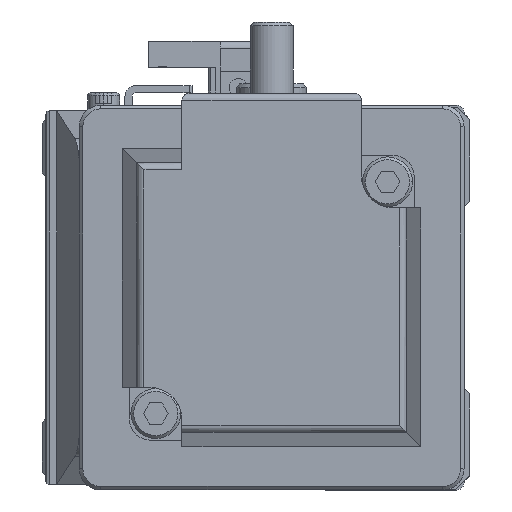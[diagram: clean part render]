
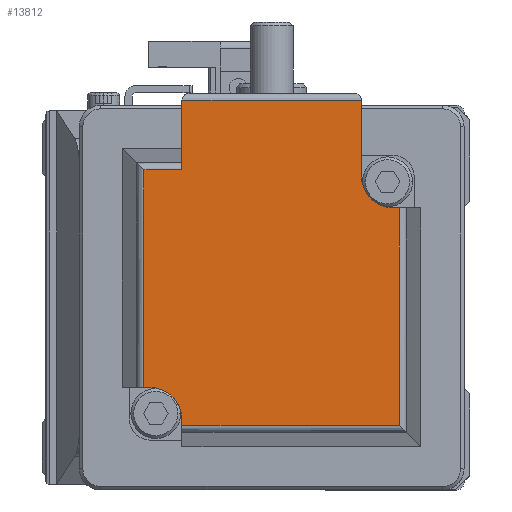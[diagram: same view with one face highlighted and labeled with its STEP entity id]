
A CAD part, left-side view. The second image highlights one B-rep face of the part: STEP entity #13812.
In plain terms, the highlighted planar face has unit normal (-1, 0, 0) as drawn and (0, 1, 0) by its records, which use the part's own axes.
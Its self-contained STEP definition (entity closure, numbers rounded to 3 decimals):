
#995 = CARTESIAN_POINT ( 'NONE',  ( 12.6, 100.6, 17.929 ) ) ;
#1674 = AXIS2_PLACEMENT_3D ( 'NONE', #2759, #31531, #15660 ) ;
#1908 = VECTOR ( 'NONE', #13305, 1000. ) ;
#1967 = DIRECTION ( 'NONE',  ( 1., 0., 0. ) ) ;
#1992 = CARTESIAN_POINT ( 'NONE',  ( 17.1, 100.6, 12.6 ) ) ;
#2058 = CIRCLE ( 'NONE', #3179, 4.5 ) ;
#2759 = CARTESIAN_POINT ( 'NONE',  ( 17.929, 100.6, 25. ) ) ;
#2847 = VERTEX_POINT ( 'NONE', #4758 ) ;
#3179 = AXIS2_PLACEMENT_3D ( 'NONE', #16193, #10974, #29320 ) ;
#3251 = DIRECTION ( 'NONE',  ( -1., 0., 0. ) ) ;
#3345 = VECTOR ( 'NONE', #16938, 1000. ) ;
#3416 = CARTESIAN_POINT ( 'NONE',  ( -17.1, 100.6, -17.1 ) ) ;
#3543 = VECTOR ( 'NONE', #7446, 1000. ) ;
#4276 = LINE ( 'NONE', #5369, #33292 ) ;
#4519 = VERTEX_POINT ( 'NONE', #18558 ) ;
#4758 = CARTESIAN_POINT ( 'NONE',  ( -12.6, 100.6, -17.929 ) ) ;
#4884 = EDGE_CURVE ( 'NONE', #9279, #12407, #30734, .T. ) ;
#4948 = VECTOR ( 'NONE', #9624, 1000. ) ;
#5369 = CARTESIAN_POINT ( 'NONE',  ( 17.929, 100.6, 12.6 ) ) ;
#6095 = ORIENTED_EDGE ( 'NONE', *, *, #21192, .F. ) ;
#7085 = CARTESIAN_POINT ( 'NONE',  ( -17.929, 100.6, 25. ) ) ;
#7230 = CARTESIAN_POINT ( 'NONE',  ( 17.929, 100.6, -12.6 ) ) ;
#7446 = DIRECTION ( 'NONE',  ( 0., 0., -1. ) ) ;
#7546 = VERTEX_POINT ( 'NONE', #29299 ) ;
#7608 = ORIENTED_EDGE ( 'NONE', *, *, #22359, .F. ) ;
#8092 = CARTESIAN_POINT ( 'NONE',  ( 17.929, 100.6, 25. ) ) ;
#8116 = PLANE ( 'NONE',  #1674 ) ;
#8151 = LINE ( 'NONE', #24376, #12715 ) ;
#8697 = CARTESIAN_POINT ( 'NONE',  ( -17.1, 100.6, -12.6 ) ) ;
#8884 = DIRECTION ( 'NONE',  ( 0., -1., 0. ) ) ;
#9279 = VERTEX_POINT ( 'NONE', #11038 ) ;
#9484 = LINE ( 'NONE', #30732, #4948 ) ;
#9596 = VECTOR ( 'NONE', #33510, 1000. ) ;
#9624 = DIRECTION ( 'NONE',  ( 0., 0., 1. ) ) ;
#10084 = VECTOR ( 'NONE', #26467, 1000. ) ;
#10923 = LINE ( 'NONE', #18332, #10084 ) ;
#10974 = DIRECTION ( 'NONE',  ( 0., 1., 0. ) ) ;
#11038 = CARTESIAN_POINT ( 'NONE',  ( 27.7, 100.6, -12.6 ) ) ;
#12407 = VERTEX_POINT ( 'NONE', #16891 ) ;
#12715 = VECTOR ( 'NONE', #3251, 1000. ) ;
#12885 = ORIENTED_EDGE ( 'NONE', *, *, #20775, .T. ) ;
#12920 = CARTESIAN_POINT ( 'NONE',  ( 12.6, 100.6, 25. ) ) ;
#13205 = EDGE_CURVE ( 'NONE', #24792, #16522, #8151, .T. ) ;
#13305 = DIRECTION ( 'NONE',  ( 0., 0., 1. ) ) ;
#13359 = DIRECTION ( 'NONE',  ( -1., 0., 0. ) ) ;
#13652 = EDGE_CURVE ( 'NONE', #16522, #14929, #19292, .T. ) ;
#13812 = ADVANCED_FACE ( 'NONE', ( #33367 ), #8116, .F. ) ;
#14475 = ORIENTED_EDGE ( 'NONE', *, *, #13205, .F. ) ;
#14929 = VERTEX_POINT ( 'NONE', #31630 ) ;
#15660 = DIRECTION ( 'NONE',  ( 0., 0., -1. ) ) ;
#16193 = CARTESIAN_POINT ( 'NONE',  ( 17.1, 100.6, 17.1 ) ) ;
#16245 = LINE ( 'NONE', #12920, #33657 ) ;
#16522 = VERTEX_POINT ( 'NONE', #19807 ) ;
#16876 = DIRECTION ( 'NONE',  ( 0., 0., -1. ) ) ;
#16891 = CARTESIAN_POINT ( 'NONE',  ( 27.7, 100.6, 12.6 ) ) ;
#16938 = DIRECTION ( 'NONE',  ( 0., 0., 1. ) ) ;
#17480 = VERTEX_POINT ( 'NONE', #1992 ) ;
#17587 = EDGE_CURVE ( 'NONE', #17628, #4519, #29713, .T. ) ;
#17628 = VERTEX_POINT ( 'NONE', #29084 ) ;
#18277 = CARTESIAN_POINT ( 'NONE',  ( 17.929, 100.6, -12.6 ) ) ;
#18332 = CARTESIAN_POINT ( 'NONE',  ( 17.929, 100.6, -17.929 ) ) ;
#18558 = CARTESIAN_POINT ( 'NONE',  ( 17.929, 100.6, -12.6 ) ) ;
#19292 = LINE ( 'NONE', #7085, #3543 ) ;
#19807 = CARTESIAN_POINT ( 'NONE',  ( -17.929, 100.6, 17.929 ) ) ;
#20104 = ORIENTED_EDGE ( 'NONE', *, *, #20380, .F. ) ;
#20291 = EDGE_CURVE ( 'NONE', #12407, #17480, #4276, .T. ) ;
#20380 = EDGE_CURVE ( 'NONE', #2847, #17628, #10923, .T. ) ;
#20775 = EDGE_CURVE ( 'NONE', #34136, #32105, #32429, .T. ) ;
#20940 = ORIENTED_EDGE ( 'NONE', *, *, #17587, .F. ) ;
#21192 = EDGE_CURVE ( 'NONE', #7546, #24792, #16245, .T. ) ;
#21614 = ORIENTED_EDGE ( 'NONE', *, *, #27163, .F. ) ;
#22185 = ORIENTED_EDGE ( 'NONE', *, *, #13652, .F. ) ;
#22359 = EDGE_CURVE ( 'NONE', #17480, #7546, #2058, .T. ) ;
#23422 = EDGE_LOOP ( 'NONE', ( #26681, #30190, #25600, #20940, #20104, #27278, #12885, #21614, #22185, #14475, #6095, #7608 ) ) ;
#24376 = CARTESIAN_POINT ( 'NONE',  ( 17.929, 100.6, 17.929 ) ) ;
#24792 = VERTEX_POINT ( 'NONE', #995 ) ;
#25318 = EDGE_CURVE ( 'NONE', #4519, #9279, #29293, .T. ) ;
#25600 = ORIENTED_EDGE ( 'NONE', *, *, #25318, .F. ) ;
#26248 = AXIS2_PLACEMENT_3D ( 'NONE', #3416, #8884, #16876 ) ;
#26467 = DIRECTION ( 'NONE',  ( 1., 0., 0. ) ) ;
#26681 = ORIENTED_EDGE ( 'NONE', *, *, #20291, .F. ) ;
#27163 = EDGE_CURVE ( 'NONE', #14929, #32105, #29543, .T. ) ;
#27278 = ORIENTED_EDGE ( 'NONE', *, *, #30036, .T. ) ;
#27381 = CARTESIAN_POINT ( 'NONE',  ( 27.7, 100.6, 25. ) ) ;
#29084 = CARTESIAN_POINT ( 'NONE',  ( 17.929, 100.6, -17.929 ) ) ;
#29170 = CARTESIAN_POINT ( 'NONE',  ( -12.6, 100.6, -17.1 ) ) ;
#29293 = LINE ( 'NONE', #18277, #30101 ) ;
#29299 = CARTESIAN_POINT ( 'NONE',  ( 12.6, 100.6, 17.1 ) ) ;
#29320 = DIRECTION ( 'NONE',  ( 0., 0., -1. ) ) ;
#29543 = LINE ( 'NONE', #7230, #9596 ) ;
#29713 = LINE ( 'NONE', #8092, #1908 ) ;
#30036 = EDGE_CURVE ( 'NONE', #2847, #34136, #9484, .T. ) ;
#30101 = VECTOR ( 'NONE', #1967, 1000. ) ;
#30190 = ORIENTED_EDGE ( 'NONE', *, *, #4884, .F. ) ;
#30732 = CARTESIAN_POINT ( 'NONE',  ( -12.6, 100.6, -21. ) ) ;
#30734 = LINE ( 'NONE', #27381, #3345 ) ;
#31475 = DIRECTION ( 'NONE',  ( 0., 0., 1. ) ) ;
#31531 = DIRECTION ( 'NONE',  ( 0., -1., 0. ) ) ;
#31630 = CARTESIAN_POINT ( 'NONE',  ( -17.929, 100.6, -12.6 ) ) ;
#32105 = VERTEX_POINT ( 'NONE', #8697 ) ;
#32429 = CIRCLE ( 'NONE', #26248, 4.5 ) ;
#33292 = VECTOR ( 'NONE', #13359, 1000. ) ;
#33367 = FACE_OUTER_BOUND ( 'NONE', #23422, .T. ) ;
#33510 = DIRECTION ( 'NONE',  ( 1., 0., 0. ) ) ;
#33657 = VECTOR ( 'NONE', #31475, 1000. ) ;
#34136 = VERTEX_POINT ( 'NONE', #29170 ) ;
